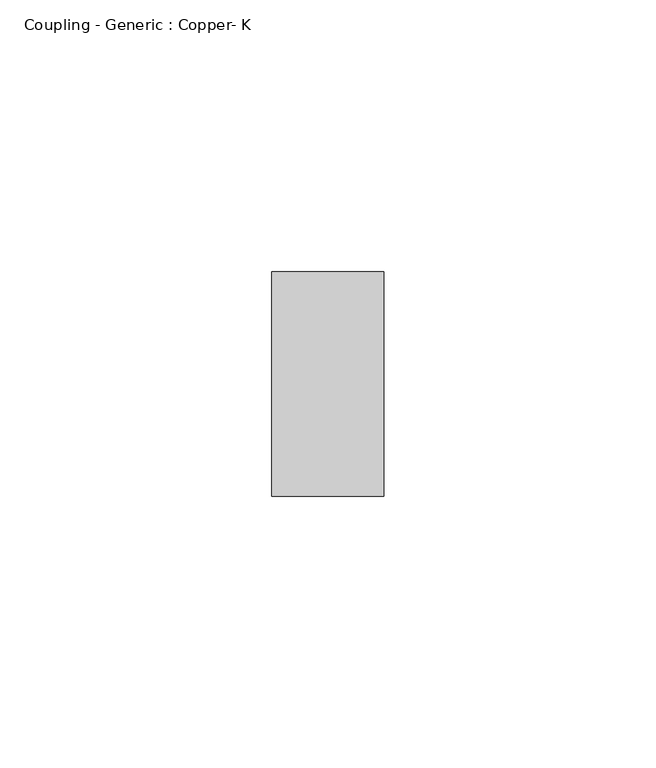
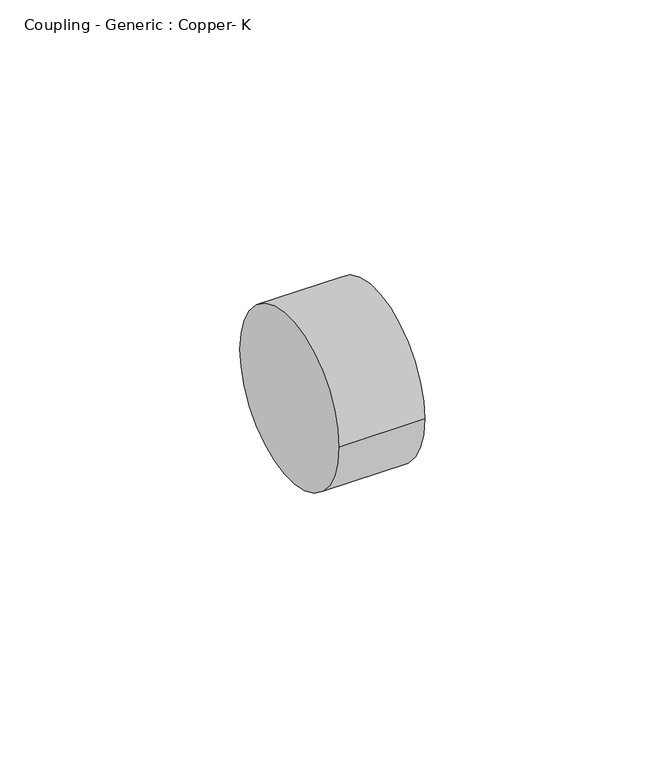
"""IFC4 building model written with IfcOpenShell, lengths in millimetres: pipe fitting geometry, Coupling - Generic : Copper- K."""

from ifc_helpers import new_model, si_unit, point, frame, origin, origin_2d, place, context, project, spatial, circle_curve, trimmed, segment, composite_curve, outline, extrude, source, transform, mapped, element, save


def coupling_generic_copper_k_8cdb91ae(model_context):
    return source(origin(), model_context, "Body", "SweptSolid", [
        extrude(outline(composite_curve([segment(trimmed(circle_curve(origin_2d(), 20.6375), [point((-20.6375, 0.0))], [point((20.6375, 0.0))], False, "CARTESIAN"), True, "CONTINUOUS"), segment(trimmed(circle_curve(origin_2d(), 20.6375), [point((20.6375, 0.0))], [point((-20.6375, 0.0))], False, "CARTESIAN"), True, "CONTINUOUS")], self_intersect=False)), frame((-10.31875, 0.0, 0.0), z_axis=(1.0, 0.0, 0.0), x_axis=(0.0, 1.0, 0.0)), (0.0, 0.0, 1.0), 20.6375),
    ])


if __name__ == "__main__":
    model = new_model("IFC4")
    model_context = context("Model", 3, world=origin())
    ifc_project = project(units=[si_unit("LENGTHUNIT", "METRE", prefix="MILLI")], contexts=[model_context])
    site = spatial("IfcSite", under=ifc_project)
    building = spatial("IfcBuilding", under=site)
    placement = place(None, origin())
    coupling_generic_copper_k_shape = coupling_generic_copper_k_8cdb91ae(model_context)
    element("IfcPipeFitting", 1, ObjectType="Coupling - Generic : Copper- K", at=placement, inside=building, context=model_context, shape_type="MappedRepresentation", body=[
        mapped(coupling_generic_copper_k_shape, transform((0.0, 0.0, 0.0), x_axis=(1.0, 0.0, 0.0), y_axis=(0.0, 1.0, 0.0), z_axis=(0.0, 0.0, 1.0))),
    ])
    save(model, "model.ifc")
